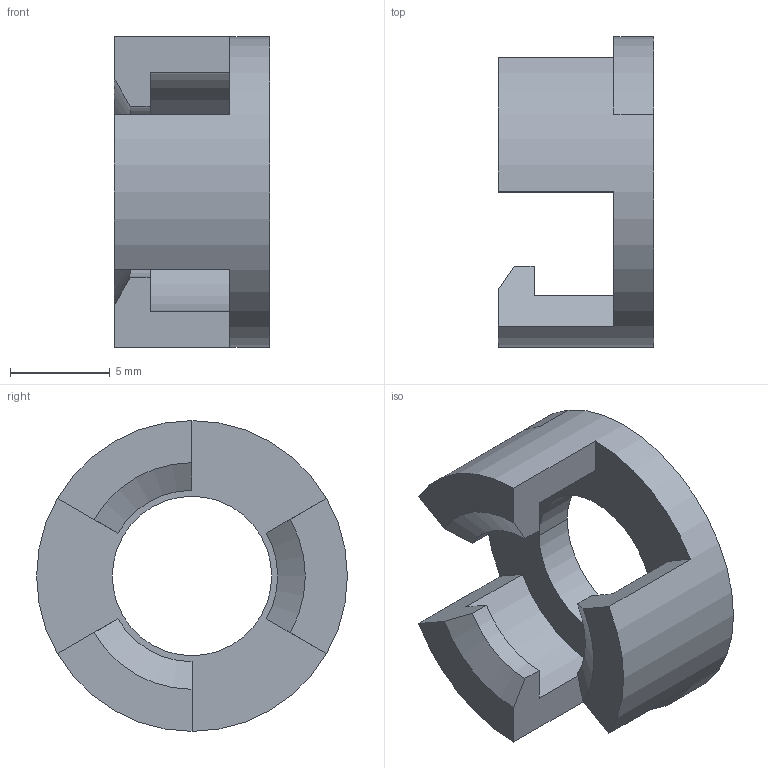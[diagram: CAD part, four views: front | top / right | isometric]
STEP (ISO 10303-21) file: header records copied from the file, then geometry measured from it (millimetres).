
FILE_DESCRIPTION(('CATIA V5 STEP Exchange'),'2;1');
FILE_NAME('C:\Users\Administrator\Desktop\YJ-消音器后盖3孔.stp','2021-12-16T08:39:21+00:00',('none'),('none'),'CATIA Version 5 Release 20 GA (IN-10)','CATIA V5 STEP AP214','none');
FILE_SCHEMA(('AUTOMOTIVE_DESIGN { 1 0 10303 214 1 1 1 1 }'));
Length unit declared in the file: millimetre
Products named in the file (1): Part19
Bounding box: 7.8 x 15.6 x 15.6 mm (x, y, z)
Volume: 549.3 mm3; surface area: 797.1 mm2
Topology: 1 solids, 1 shells, 27 faces, 83 edges, 58 vertices
Faces by surface type: plane 14, cylinder 10, cone 3
Entity records: 926 total; most frequent: CARTESIAN_POINT 178, ORIENTED_EDGE 166, DIRECTION 122, EDGE_CURVE 83, AXIS2_PLACEMENT_3D 59, VERTEX_POINT 58, VECTOR 43, LINE 43
